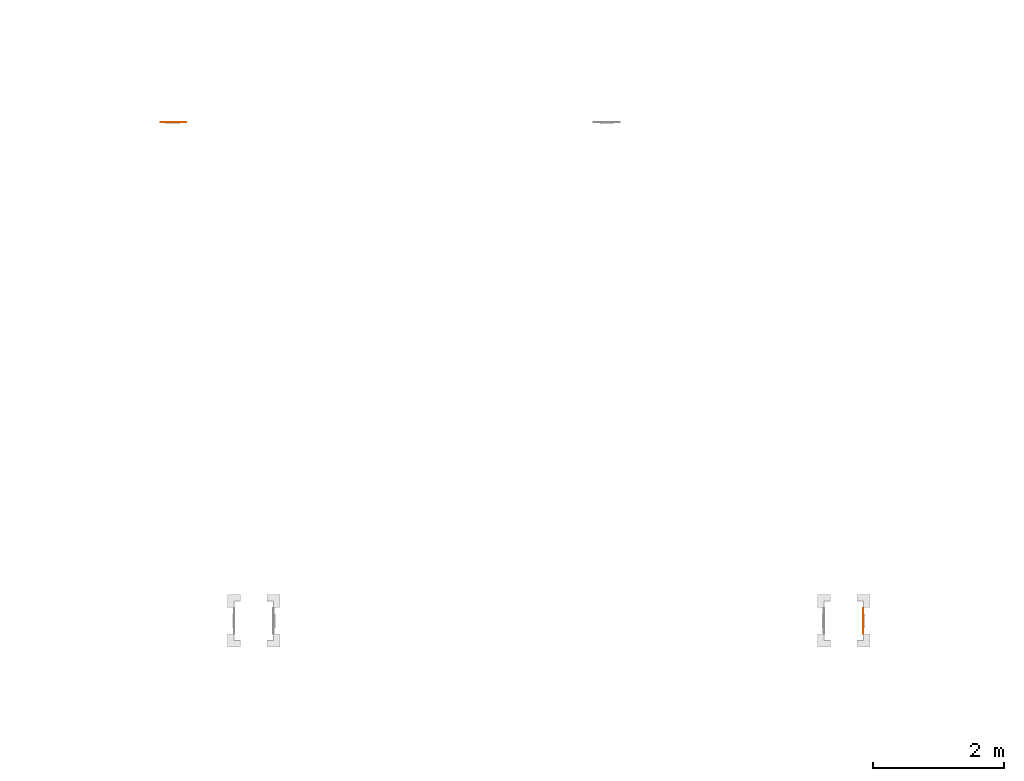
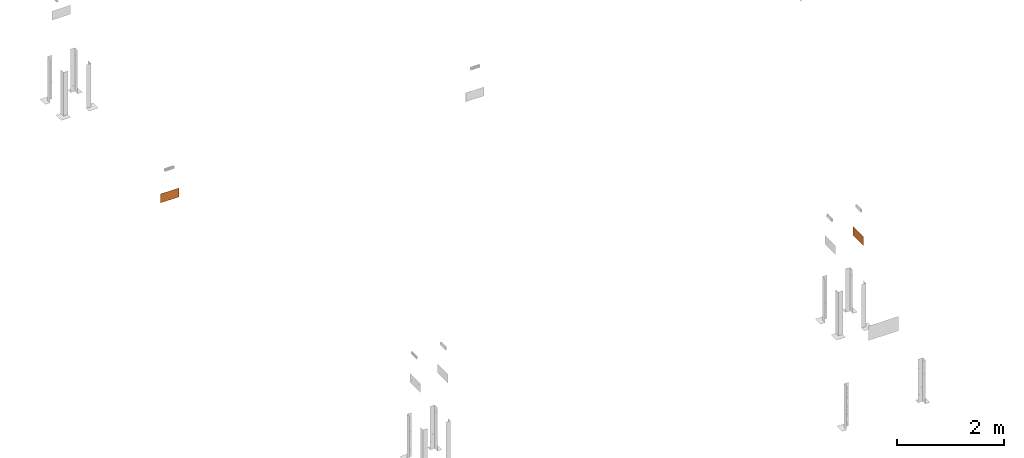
# One storey, part 49 of 119: 2 proxies.
"""IFC2X3 building model written with IfcOpenShell, lengths in metres."""

from ifc_helpers import new_model, entity, si_unit, converted_unit, derived_unit, direction, frame, frame_2d, origin, origin_2d_with_axis, place, context, subcontext, project, spatial, polyline, circle_curve, parameter, trimmed, segment, composite_curve, rectangle, outline, extrude, source, transform, mapped, material, material_list, type_object, type_shapes, element, save


model = new_model("IFC2X3")

# Units and contexts
model_context = context("Model", 3, precision=1e-05, world=origin(), true_north=direction((6.12303176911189e-17, 1.0)))
body_context = subcontext(model_context, "Body", "Model", "MODEL_VIEW")
ifc_project = project(units=[si_unit("LENGTHUNIT", "METRE"), si_unit("AREAUNIT", "SQUARE_METRE"), si_unit("VOLUMEUNIT", "CUBIC_METRE"), converted_unit("PLANEANGLEUNIT", "DEGREE", entity("IfcRatioMeasure", 0.0174532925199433), si_unit("PLANEANGLEUNIT", "RADIAN"), dimensions=[0, 0, 0, 0, 0, 0, 0]), si_unit("MASSUNIT", "GRAM", prefix="KILO"), derived_unit("MASSDENSITYUNIT", [(si_unit("MASSUNIT", "GRAM", prefix="KILO"), 1), (si_unit("LENGTHUNIT", "METRE"), -3)]), derived_unit("MOMENTOFINERTIAUNIT", [(si_unit("LENGTHUNIT", "METRE"), 4)]), si_unit("TIMEUNIT", "SECOND"), si_unit("FREQUENCYUNIT", "HERTZ"), si_unit("THERMODYNAMICTEMPERATUREUNIT", "DEGREE_CELSIUS"), derived_unit("THERMALTRANSMITTANCEUNIT", [(si_unit("MASSUNIT", "GRAM", prefix="KILO"), 1), (si_unit("THERMODYNAMICTEMPERATUREUNIT", "KELVIN"), -1), (si_unit("TIMEUNIT", "SECOND"), -3)]), derived_unit("VOLUMETRICFLOWRATEUNIT", [(si_unit("LENGTHUNIT", "METRE"), 3), (si_unit("TIMEUNIT", "SECOND"), -1)]), si_unit("ELECTRICCURRENTUNIT", "AMPERE"), si_unit("ELECTRICVOLTAGEUNIT", "VOLT"), si_unit("POWERUNIT", "WATT"), si_unit("FORCEUNIT", "NEWTON", prefix="KILO"), si_unit("ILLUMINANCEUNIT", "LUX"), si_unit("LUMINOUSFLUXUNIT", "LUMEN"), si_unit("LUMINOUSINTENSITYUNIT", "CANDELA"), derived_unit("USERDEFINED", [(si_unit("MASSUNIT", "GRAM", prefix="KILO"), -1), (si_unit("LENGTHUNIT", "METRE"), -2), (si_unit("TIMEUNIT", "SECOND"), 3), (si_unit("LUMINOUSFLUXUNIT", "LUMEN"), 1)]), derived_unit("LINEARVELOCITYUNIT", [(si_unit("LENGTHUNIT", "METRE"), 1), (si_unit("TIMEUNIT", "SECOND"), -1)]), si_unit("PRESSUREUNIT", "PASCAL"), derived_unit("USERDEFINED", [(si_unit("LENGTHUNIT", "METRE"), -2), (si_unit("MASSUNIT", "GRAM", prefix="KILO"), 1), (si_unit("TIMEUNIT", "SECOND"), -2)]), derived_unit("LINEARFORCEUNIT", [(si_unit("MASSUNIT", "GRAM", prefix="KILO"), 1), (si_unit("LENGTHUNIT", "METRE"), 1), (si_unit("TIMEUNIT", "SECOND"), -2), (si_unit("LENGTHUNIT", "METRE"), -1)]), derived_unit("PLANARFORCEUNIT", [(si_unit("MASSUNIT", "GRAM", prefix="KILO"), 1), (si_unit("LENGTHUNIT", "METRE"), 1), (si_unit("TIMEUNIT", "SECOND"), -2), (si_unit("LENGTHUNIT", "METRE"), -2)])], contexts=[model_context])

# Site, building, storey
site_placement = place(None, origin())
site = spatial("IfcSite", under=ifc_project, at=site_placement, Name="Default", CompositionType="ELEMENT")
building_placement = place(site_placement, origin())
building = spatial("IfcBuilding", under=site, at=building_placement, CompositionType="ELEMENT")
storey_placement = place(building_placement, origin())
storey = spatial("IfcBuildingStorey", under=building, at=storey_placement, Name="PAV. 01 - TÉRREO", CompositionType="ELEMENT", Elevation=0.0)

# Proxies
ifc_material_1 = material(Name="Plastico branco")
ifc_material_2 = material(Name="Plastico Verde")
ifc_material_list_1 = material_list([ifc_material_1, ifc_material_2])
building_element_proxy_type_1 = type_object("IfcBuildingElementProxyType", Name="Sinalização de orientação - S02 - Indicação do sentido da saída de emergência esquerda:Distância 12m", PredefinedType="NOTDEFINED", material=ifc_material_1)
shared_shape_1 = source(origin(), body_context, "Body", "SweptSolid", [
    extrude(outline(polyline([(-0.0269307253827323, -0.024231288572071), (-0.0259628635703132, -0.024231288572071), (-0.0248498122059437, -0.0234083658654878), (-0.0236286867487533, -0.0219305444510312), (-0.0223366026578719, -0.0199658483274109), (-0.0210106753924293, -0.0176823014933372), (-0.0159905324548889, -0.00832626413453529), (-0.0136800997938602, -0.00426313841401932), (-0.0125256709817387, -0.00238736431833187), (-0.0113513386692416, -0.000610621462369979), (-0.0101417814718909, 0.0010707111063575), (-0.00888166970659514, 0.00266026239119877), (-0.00754048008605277, 0.00417640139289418), (-0.00604105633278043, 0.00568273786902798), (-0.00429732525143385, 0.00725153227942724), (-0.00222321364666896, 0.00895504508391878), (0.000267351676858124, 0.010865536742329), (0.0161156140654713, 0.0220225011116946), (0.00541084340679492, 0.027666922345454), (0.004563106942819, 0.0280964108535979), (0.00398677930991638, 0.0283743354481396), (0.00361343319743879, 0.0285356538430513), (0.00337464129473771, 0.0286153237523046), (0.0032019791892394, 0.0286482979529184), (0.00303386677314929, 0.0286578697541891), (0.00283021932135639, 0.0286307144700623), (0.00255516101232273, 0.02854633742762), (0.00217281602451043, 0.0283842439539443), (0.00164730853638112, 0.0281239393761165), (0.000942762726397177, 0.0277449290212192), (-0.0154440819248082, 0.0179800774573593), (-0.0169906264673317, 0.0173662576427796), (-0.0184263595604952, 0.0170104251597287), (-0.0197467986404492, 0.0168906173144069), (-0.0209474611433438, 0.0169848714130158), (-0.0220238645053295, 0.017271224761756), (-0.0229715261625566, 0.0177277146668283), (-0.0237859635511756, 0.0183323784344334), (-0.0244626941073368, 0.0190632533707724), (-0.0249972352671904, 0.0198983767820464), (-0.025385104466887, 0.0208157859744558), (-0.0256218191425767, 0.0217935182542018), (-0.02570289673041, 0.0228096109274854), (-0.0256238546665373, 0.023842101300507), (-0.0253802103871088, 0.024869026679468), (-0.024967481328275, 0.0258684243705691), (-0.0243811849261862, 0.026818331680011), (-0.0236168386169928, 0.0276967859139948), (-0.022669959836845, 0.0284818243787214), (-0.012358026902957, 0.0349145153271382), (-0.0056365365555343, 0.0389186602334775), (-0.00143098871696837, 0.0410123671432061), (0.00133311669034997, 0.0417137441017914), (0.00371952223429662, 0.0415365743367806), (0.00635115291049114, 0.0408174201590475), (0.00926485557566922, 0.0396572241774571), (0.0124569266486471, 0.0381406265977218), (0.0382522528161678, 0.0245317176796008), (0.0409647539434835, 0.0230291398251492), (0.0432264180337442, 0.021505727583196), (0.0450948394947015, 0.0197223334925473), (0.0466276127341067, 0.0174398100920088), (0.0478823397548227, 0.0144190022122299), (0.0489477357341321, 0.0103891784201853), (0.0500145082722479, 0.00497609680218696), (0.0529984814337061, -0.0115815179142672), (0.0687826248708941, -0.0199385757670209), (0.101976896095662, 0.0427561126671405), (0.00232291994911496, 0.0955188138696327), (-0.0513007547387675, -0.00576130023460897), (-0.0561261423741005, -0.00320645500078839), (-0.0853051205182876, -0.0156605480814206), (-0.0628396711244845, -0.0275550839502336), (-0.0734521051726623, -0.0475990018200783), (-0.0904241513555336, -0.0529832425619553), (-0.0204118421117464, -0.0900518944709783), (-0.00292720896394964, -0.0849390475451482), (0.0122206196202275, -0.0929592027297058), (-0.00693758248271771, -0.0971859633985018), (0.00953030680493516, -0.105905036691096), (0.0262018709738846, -0.100361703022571), (0.0628213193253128, -0.0311978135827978), (0.0451218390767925, -0.0218302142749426), (0.0436304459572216, -0.0209809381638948), (0.0424868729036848, -0.020192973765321), (0.041614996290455, -0.0193663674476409), (0.0409386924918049, -0.0184011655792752), (0.0403818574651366, -0.0171974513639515), (0.0398810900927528, -0.0156792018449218), (0.0394075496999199, -0.0138354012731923), (0.0389382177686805, -0.0116659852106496), (0.0366426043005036, 0.000269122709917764), (0.0172569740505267, -0.0138624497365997), (0.0147941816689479, -0.0880984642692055), (-0.000353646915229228, -0.0800783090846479), (-0.000324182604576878, -0.0142849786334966), (-0.0124368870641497, -0.0319051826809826), (-0.0138384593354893, -0.0341119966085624), (-0.0151491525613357, -0.0360250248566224), (-0.0164165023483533, -0.0376353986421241), (-0.0176880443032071, -0.0389342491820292), (-0.0190113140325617, -0.0399127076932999), (-0.0204338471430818, -0.0405619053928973), (-0.0220031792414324, -0.0408729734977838), (-0.0237668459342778, -0.0408370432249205), (-0.025772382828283, -0.0404452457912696), (-0.0280673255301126, -0.0396887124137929), (-0.0306992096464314, -0.0385585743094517), (-0.0337155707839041, -0.0370459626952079), (-0.0714172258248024, -0.0170844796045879), (-0.0536029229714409, -0.0101094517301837), (-0.0269307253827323, -0.024231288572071)]), holes=[composite_curve([segment(trimmed(circle_curve(frame_2d((0.0517161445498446, 0.0359195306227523), x_axis=(0.883770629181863, -0.46792037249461)), 0.0134), [parameter(180.0)], [parameter(360.0)], True, "PARAMETER"), False, "CONTINUOUS"), segment(trimmed(circle_curve(frame_2d((0.0517161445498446, 0.0359195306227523), x_axis=(0.883770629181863, -0.46792037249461)), 0.0134), [parameter(2.03555499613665e-13)], [parameter(180.0)], True, "PARAMETER"), False, "CONTINUOUS")], self_intersect=False)]), frame((0.112957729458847, -0.00110000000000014, 1.90431633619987), z_axis=(0.0, 1.0, 0.0), x_axis=(-0.883770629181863, 0.0, 0.46792037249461)), (0.0, 0.0, 1.0), 0.0011),
    extrude(outline(polyline([(-0.197500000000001, -0.102500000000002), (0.197500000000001, -0.102500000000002), (0.197500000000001, 0.102500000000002), (-0.197500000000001, 0.102500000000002), (-0.197500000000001, -0.102500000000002)]), holes=[polyline([(-0.190000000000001, -0.0950000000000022), (-0.190000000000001, 0.0949999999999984), (0.189999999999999, 0.0949999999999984), (0.189999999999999, -0.0950000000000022), (-0.190000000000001, -0.0950000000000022)])]), frame((0.0, -0.0011, 1.9025), z_axis=(0.0, 1.0, 0.0), x_axis=(1.0, 0.0, 0.0)), (0.0, 0.0, 1.0), 0.0011),
    extrude(rectangle(XDim=0.38, YDim=0.001, at=origin_2d_with_axis()), frame((0.0, -0.0005, 1.8075)), (0.0, 0.0, 1.0), 0.190000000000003),
    extrude(outline(polyline([(-0.0341511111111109, -0.0575999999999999), (0.016628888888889, -0.0575999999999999), (-0.0218311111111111, -0.0191399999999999), (0.0852288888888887, -0.0191399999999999), (0.0852288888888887, 0.0191400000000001), (-0.0218311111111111, 0.0191400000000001), (0.016628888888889, 0.0576000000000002), (-0.0341511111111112, 0.0576000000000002), (-0.0917511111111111, 0.0), (-0.0341511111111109, -0.0575999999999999)])), frame((-0.0852288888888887, -0.0011, 1.9025), z_axis=(0.0, 1.0, 0.0), x_axis=(1.0, 0.0, 0.0)), (0.0, 0.0, 1.0), 0.0011),
])
type_shapes(building_element_proxy_type_1, [shared_shape_1])
proxy_1_placement = place(storey_placement, frame((37.9738354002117, 0.425057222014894, 0.0), z_axis=(0.0, 0.0, 1.0), x_axis=(0.0, 1.0, 0.0)))
element("IfcBuildingElementProxy", 1, at=proxy_1_placement, inside=storey, type_object=building_element_proxy_type_1, material=ifc_material_list_1, Name="Sinalização de orientação - S02 - Indicação do sentido da saída de emergência esquerda:Distância 12m", ObjectType="Sinalização de orientação - S02 - Indicação do sentido da saída de emergência esquerda:Distância 12m", context=body_context, shape_type="MappedRepresentation", body=[
    mapped(shared_shape_1, transform((0.0, 0.0, 0.0), scale=1.0)),
])
ifc_material_list_2 = material_list([ifc_material_1, ifc_material_2])
building_element_proxy_type_2 = type_object("IfcBuildingElementProxyType", Name="Sinalização de orientação - S01 - Indicação do sentido da saída de emergência direita:Distância 12m", PredefinedType="NOTDEFINED", material=ifc_material_1)
shared_shape_2 = source(origin(), body_context, "Body", "SweptSolid", [
    extrude(outline(polyline([(0.0124622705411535, 0.0340163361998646), (0.0116069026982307, 0.0335634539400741), (0.0110082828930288, 0.0323153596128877), (0.0106205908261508, 0.0304379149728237), (0.0103980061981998, 0.0280969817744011), (0.0102947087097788, 0.0254584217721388), (0.0102359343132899, 0.0148408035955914), (0.0100952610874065, 0.0101688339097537), (0.00995272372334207, 0.00797089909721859), (0.00974625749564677, 0.00585117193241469), (0.00946401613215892, 0.00379928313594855), (0.00909414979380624, 0.0018048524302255), (0.00861827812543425, -0.000162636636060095), (0.00799797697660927, -0.00219550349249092), (0.00719098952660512, -0.00439788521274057), (0.00615505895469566, -0.0068739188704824), (0.00484792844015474, -0.00972774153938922), (0.00322734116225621, -0.0130634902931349), (-0.00393772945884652, -0.0270036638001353), (0.00911414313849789, -0.0269659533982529), (0.00975353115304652, -0.0269418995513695), (0.0101589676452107, -0.0269097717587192), (0.0104072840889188, -0.0268684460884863), (0.0105753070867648, -0.026816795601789), (0.0107283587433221, -0.0267465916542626), (0.0108956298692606, -0.0266273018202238), (0.0110992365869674, -0.0264240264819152), (0.0113612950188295, -0.02610186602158), (0.0117039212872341, -0.02562592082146), (0.0121492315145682, -0.0249612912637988), (0.0134363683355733, -0.022926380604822), (0.0220622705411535, -0.00866366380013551), (0.0231418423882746, -0.00739752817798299), (0.024244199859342, -0.00641124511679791), (0.0253551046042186, -0.00568750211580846), (0.026460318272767, -0.0052089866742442), (0.0275456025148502, -0.00495838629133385), (0.0285967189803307, -0.00491838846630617), (0.0295994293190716, -0.00507168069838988), (0.0305394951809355, -0.00540095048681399), (0.0314026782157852, -0.00588888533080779), (0.0321747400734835, -0.00651817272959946), (0.0328414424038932, -0.0072715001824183), (0.033388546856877, -0.00813155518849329), (0.0338018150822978, -0.00908102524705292), (0.0340670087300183, -0.0101025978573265), (0.0341698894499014, -0.0111789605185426), (0.0340962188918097, -0.0122928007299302), (0.0338317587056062, -0.0134268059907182), (0.0333622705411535, -0.0145636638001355), (0.027258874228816, -0.0250738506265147), (0.0231922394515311, -0.0317577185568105), (0.020455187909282, -0.0355759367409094), (0.0183405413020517, -0.0374891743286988), (0.0161486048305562, -0.0384492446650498), (0.0134863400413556, -0.0390450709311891), (0.0103684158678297, -0.0393831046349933), (0.00683771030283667, -0.0395364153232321), (-0.0223273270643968, -0.0395794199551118), (-0.0254276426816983, -0.0395207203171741), (-0.0281392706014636, -0.0392326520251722), (-0.0306250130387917, -0.0385308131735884), (-0.0330476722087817, -0.0372308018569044), (-0.0355700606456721, -0.0351482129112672), (-0.0383972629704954, -0.0320852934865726), (-0.0418729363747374, -0.0278005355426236), (-0.0522577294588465, -0.0145636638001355), (-0.0701177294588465, -0.0145636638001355), (-0.0701177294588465, -0.0855036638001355), (0.0426422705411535, -0.0855036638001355), (0.0426422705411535, 0.0290963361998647), (0.0481022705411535, 0.0290963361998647), (0.0680622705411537, 0.0537563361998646), (0.0426422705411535, 0.0537563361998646), (0.0426422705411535, 0.0764363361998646), (0.0551222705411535, 0.0891363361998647), (-0.0240977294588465, 0.0891363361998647), (-0.0371577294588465, 0.0764363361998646), (-0.0542977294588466, 0.0764363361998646), (-0.039344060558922, 0.0891363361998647), (-0.0579777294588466, 0.0891363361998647), (-0.0701177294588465, 0.0764363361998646), (-0.0701177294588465, -0.00182366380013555), (-0.0500921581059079, -0.00182052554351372), (-0.048376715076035, -0.00187323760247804), (-0.0469973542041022, -0.00203451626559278), (-0.0458400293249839, -0.00235707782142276), (-0.0447906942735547, -0.00289363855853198), (-0.0437353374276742, -0.0036968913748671), (-0.0425823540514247, -0.00480435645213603), (-0.0413011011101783, -0.00621227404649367), (-0.0398712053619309, -0.00790993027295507), (-0.0322577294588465, -0.0173836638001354), (-0.0217377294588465, 0.00417633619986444), (-0.0542977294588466, 0.0709363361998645), (-0.0371577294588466, 0.0709363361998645), (-0.00639772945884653, 0.0127763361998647), (-0.00393772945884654, 0.0340163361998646), (-0.00373167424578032, 0.0366224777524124), (-0.00346846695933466, 0.0389264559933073), (-0.00310194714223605, 0.0409426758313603), (-0.00258595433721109, 0.0426855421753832), (-0.00187432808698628, 0.0441694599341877), (-0.000920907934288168, 0.0454088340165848), (0.000320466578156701, 0.0464180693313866), (0.00189595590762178, 0.0472115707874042), (0.00385172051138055, 0.0478037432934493), (0.00623392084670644, 0.0482089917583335), (0.00908871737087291, 0.0484417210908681), (0.0124622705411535, 0.0485163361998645), (0.0551222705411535, 0.0485163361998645), (0.0426422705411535, 0.0340163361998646), (0.0124622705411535, 0.0340163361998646)]), holes=[composite_curve([segment(trimmed(circle_curve(frame_2d((-0.0288977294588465, -0.0559436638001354), x_axis=(-1.0, 0.0)), 0.0134), [parameter(180.0)], [parameter(360.0)], True, "PARAMETER"), False, "CONTINUOUS"), segment(trimmed(circle_curve(frame_2d((-0.0288977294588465, -0.0559436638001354), x_axis=(-1.0, 0.0)), 0.0134), [parameter(2.03555499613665e-13)], [parameter(180.0)], True, "PARAMETER"), False, "CONTINUOUS")], self_intersect=False)]), frame((-0.112957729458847, -0.00110000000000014, 1.90431633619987), z_axis=(0.0, -1.0, 0.0), x_axis=(-1.0, 0.0, 0.0)), (0.0, 0.0, -1.0), 0.0011),
    extrude(outline(polyline([(-0.102500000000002, -0.197500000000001), (0.102500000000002, -0.197500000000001), (0.102500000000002, 0.197500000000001), (-0.102500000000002, 0.197500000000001), (-0.102500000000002, -0.197500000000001)]), holes=[polyline([(-0.0950000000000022, -0.190000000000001), (-0.0950000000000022, 0.189999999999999), (0.0949999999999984, 0.189999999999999), (0.0949999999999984, -0.190000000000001), (-0.0950000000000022, -0.190000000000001)])]), frame((0.0, -0.0011, 1.9025), z_axis=(0.0, 1.0, 0.0), x_axis=(0.0, 0.0, -1.0)), (0.0, 0.0, 1.0), 0.0011),
    extrude(rectangle(XDim=0.001, YDim=0.38, at=origin_2d_with_axis()), frame((0.0, -0.0005, 1.8075), z_axis=(0.0, 0.0, 1.0), x_axis=(0.0, 1.0, 0.0)), (0.0, 0.0, 1.0), 0.190000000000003),
    extrude(outline(polyline([(-0.0165808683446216, -0.0648778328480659), (0.0648778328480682, -0.0648778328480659), (0.0648778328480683, 0.016580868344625), (0.0289709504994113, 0.0524877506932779), (0.0289709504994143, -0.00190290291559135), (-0.0467319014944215, 0.073799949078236), (-0.0737999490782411, 0.0467319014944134), (0.00190290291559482, -0.0289709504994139), (-0.0524877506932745, -0.028970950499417), (-0.0165808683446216, -0.0648778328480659)])), frame((0.0852288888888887, -0.0011, 1.9025), z_axis=(0.0, 1.0, 0.0), x_axis=(0.707106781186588, 0.0, -0.707106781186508)), (0.0, 0.0, 1.0), 0.0011),
])
type_shapes(building_element_proxy_type_2, [shared_shape_2])
proxy_2_placement = place(storey_placement, frame((27.4490605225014, 8.03338193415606, 0.0)))
element("IfcBuildingElementProxy", 2, at=proxy_2_placement, inside=storey, type_object=building_element_proxy_type_2, material=ifc_material_list_2, Name="Sinalização de orientação - S01 - Indicação do sentido da saída de emergência direita:Distância 12m", ObjectType="Sinalização de orientação - S01 - Indicação do sentido da saída de emergência direita:Distância 12m", context=body_context, shape_type="MappedRepresentation", body=[
    mapped(shared_shape_2, transform((0.0, 0.0, 0.0), scale=1.0)),
])

save(model, "model.ifc")
